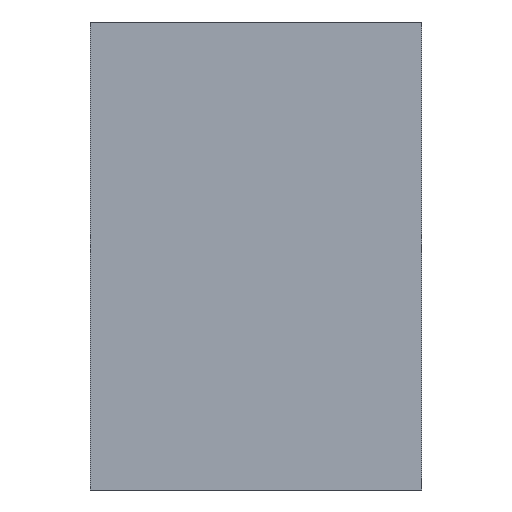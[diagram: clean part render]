
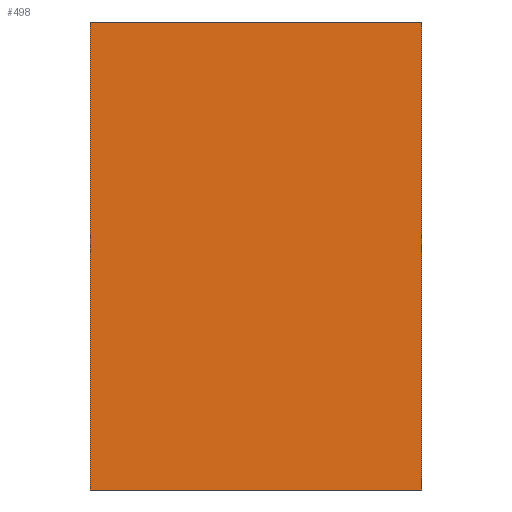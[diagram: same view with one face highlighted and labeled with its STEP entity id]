
A CAD part, left-side view. The second image highlights one B-rep face of the part: STEP entity #498.
In plain terms, the highlighted planar face has unit normal (-0.999, -0.052, 0).
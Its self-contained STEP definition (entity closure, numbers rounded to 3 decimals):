
#20 = DIRECTION ( 'NONE',  ( 0., 0., 1. ) ) ;
#32 = AXIS2_PLACEMENT_3D ( 'NONE', #307, #652, #924 ) ;
#33 = VERTEX_POINT ( 'NONE', #1001 ) ;
#75 = EDGE_CURVE ( 'NONE', #956, #267, #210, .T. ) ;
#129 = LINE ( 'NONE', #224, #510 ) ;
#137 = PLANE ( 'NONE',  #32 ) ;
#169 = ORIENTED_EDGE ( 'NONE', *, *, #75, .F. ) ;
#175 = ORIENTED_EDGE ( 'NONE', *, *, #888, .F. ) ;
#210 = LINE ( 'NONE', #909, #1035 ) ;
#215 = ORIENTED_EDGE ( 'NONE', *, *, #222, .T. ) ;
#222 = EDGE_CURVE ( 'NONE', #430, #33, #459, .T. ) ;
#224 = CARTESIAN_POINT ( 'NONE',  ( -197., 113., 1992. ) ) ;
#226 = FACE_OUTER_BOUND ( 'NONE', #455, .T. ) ;
#267 = VERTEX_POINT ( 'NONE', #384 ) ;
#287 = ORIENTED_EDGE ( 'NONE', *, *, #947, .T. ) ;
#302 = DIRECTION ( 'NONE',  ( 0.052, -0.999, 0. ) ) ;
#307 = CARTESIAN_POINT ( 'NONE',  ( -197., 113., 2259. ) ) ;
#318 = CARTESIAN_POINT ( 'NONE',  ( -196.581, 105., 1992. ) ) ;
#384 = CARTESIAN_POINT ( 'NONE',  ( -196.581, 105., 2105. ) ) ;
#395 = DIRECTION ( 'NONE',  ( 0.052, -0.999, 0. ) ) ;
#430 = VERTEX_POINT ( 'NONE', #1015 ) ;
#455 = EDGE_LOOP ( 'NONE', ( #287, #215, #175, #169 ) ) ;
#458 = VECTOR ( 'NONE', #20, 1000. ) ;
#459 = LINE ( 'NONE', #810, #458 ) ;
#481 = DIRECTION ( 'NONE',  ( 0., 0., 1. ) ) ;
#482 = LINE ( 'NONE', #1106, #1139 ) ;
#498 = ADVANCED_FACE ( 'NONE', ( #226 ), #137, .F. ) ;
#510 = VECTOR ( 'NONE', #302, 1000. ) ;
#652 = DIRECTION ( 'NONE',  ( 0.999, 0.052, 0. ) ) ;
#810 = CARTESIAN_POINT ( 'NONE',  ( -192.388, 25., 2259. ) ) ;
#888 = EDGE_CURVE ( 'NONE', #267, #33, #482, .T. ) ;
#909 = CARTESIAN_POINT ( 'NONE',  ( -196.581, 105., 0. ) ) ;
#924 = DIRECTION ( 'NONE',  ( -0.052, 0.999, 0. ) ) ;
#947 = EDGE_CURVE ( 'NONE', #956, #430, #129, .T. ) ;
#956 = VERTEX_POINT ( 'NONE', #318 ) ;
#1001 = CARTESIAN_POINT ( 'NONE',  ( -192.388, 25., 2105. ) ) ;
#1015 = CARTESIAN_POINT ( 'NONE',  ( -192.388, 25., 1992. ) ) ;
#1035 = VECTOR ( 'NONE', #481, 1000. ) ;
#1106 = CARTESIAN_POINT ( 'NONE',  ( -196.581, 105., 2105. ) ) ;
#1139 = VECTOR ( 'NONE', #395, 1000. ) ;
